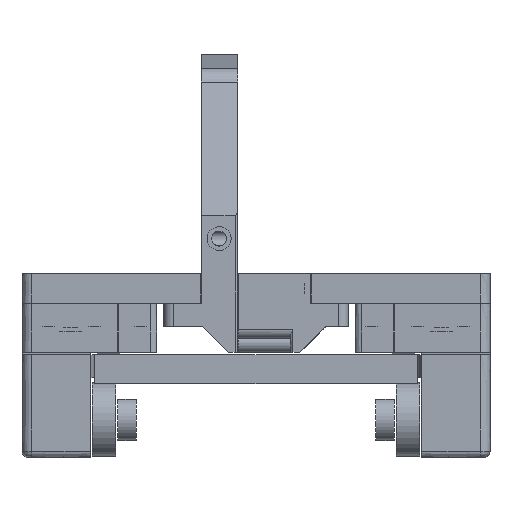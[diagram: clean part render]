
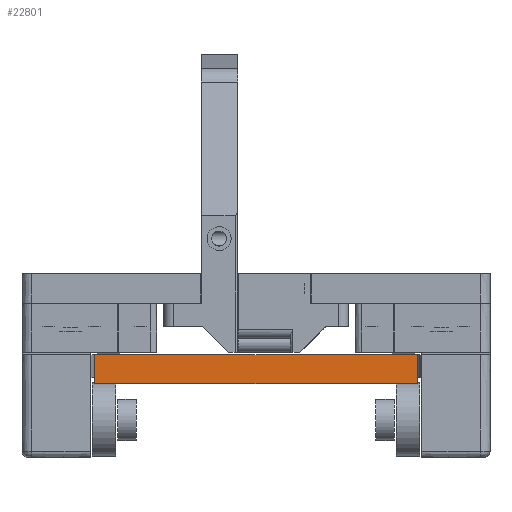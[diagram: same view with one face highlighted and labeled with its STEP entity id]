
A CAD part, front view. The second image highlights one B-rep face of the part: STEP entity #22801.
In plain terms, the highlighted planar face has unit normal (0, -1, 0).
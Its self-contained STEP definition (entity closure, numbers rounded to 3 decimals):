
#2195=PLANE('',#24207);
#2627=FACE_OUTER_BOUND('',#3982,.T.);
#3982=EDGE_LOOP('',(#16014,#16015,#16016,#16017));
#6234=LINE('',#33617,#7453);
#6235=LINE('',#33620,#7454);
#6236=LINE('',#33622,#7455);
#6237=LINE('',#33623,#7456);
#7453=VECTOR('',#26971,10.);
#7454=VECTOR('',#26974,10.);
#7455=VECTOR('',#26975,10.);
#7456=VECTOR('',#26976,10.);
#10094=VERTEX_POINT('',#33610);
#10097=VERTEX_POINT('',#33615);
#10098=VERTEX_POINT('',#33619);
#10099=VERTEX_POINT('',#33621);
#12392=EDGE_CURVE('',#10094,#10097,#6234,.T.);
#12393=EDGE_CURVE('',#10098,#10094,#6235,.T.);
#12394=EDGE_CURVE('',#10099,#10097,#6236,.T.);
#12395=EDGE_CURVE('',#10098,#10099,#6237,.T.);
#16014=ORIENTED_EDGE('',*,*,#12393,.T.);
#16015=ORIENTED_EDGE('',*,*,#12392,.T.);
#16016=ORIENTED_EDGE('',*,*,#12394,.F.);
#16017=ORIENTED_EDGE('',*,*,#12395,.F.);
#22801=ADVANCED_FACE('',(#2627),#2195,.T.);
#24207=AXIS2_PLACEMENT_3D('',#33618,#26972,#26973);
#26971=DIRECTION('',(0.,0.,-1.));
#26972=DIRECTION('center_axis',(0.,-1.,0.));
#26973=DIRECTION('ref_axis',(-1.,0.,0.));
#26974=DIRECTION('',(-1.,0.,0.));
#26975=DIRECTION('',(-1.,0.,0.));
#26976=DIRECTION('',(0.,0.,-1.));
#33610=CARTESIAN_POINT('',(-80.,-17.5,0.));
#33615=CARTESIAN_POINT('',(-80.,-17.5,-6.35));
#33617=CARTESIAN_POINT('',(-80.,-17.5,0.));
#33618=CARTESIAN_POINT('Origin',(-10.,-17.5,0.));
#33619=CARTESIAN_POINT('',(-10.,-17.5,0.));
#33620=CARTESIAN_POINT('',(-10.,-17.5,0.));
#33621=CARTESIAN_POINT('',(-10.,-17.5,-6.35));
#33622=CARTESIAN_POINT('',(-10.,-17.5,-6.35));
#33623=CARTESIAN_POINT('',(-10.,-17.5,0.));
